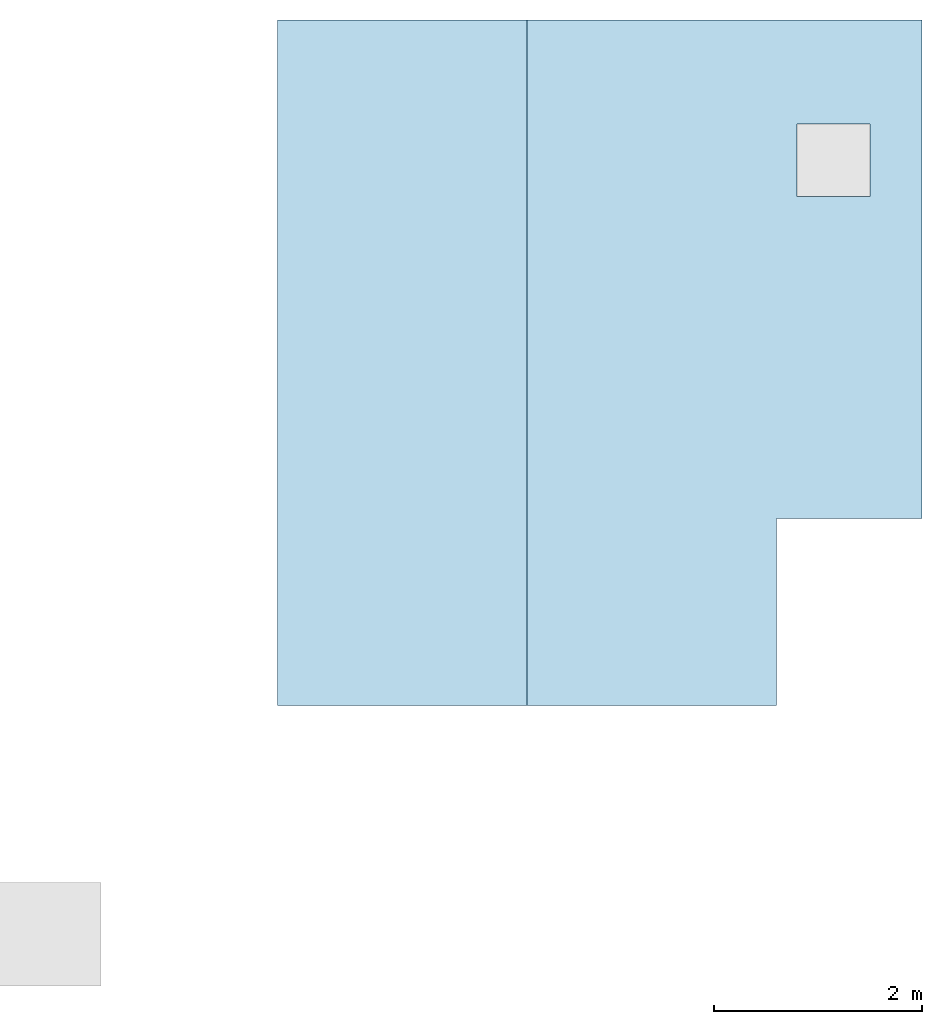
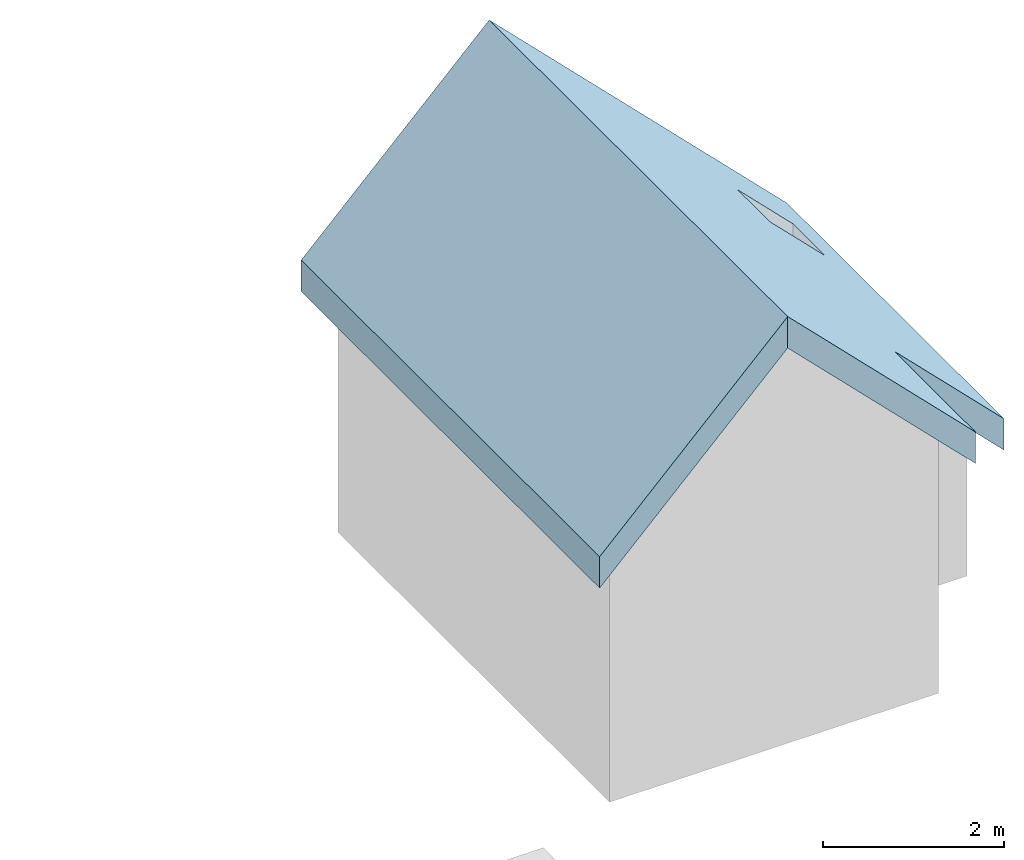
# Not in any storey, part 1 of 2: 2 slabs, 1 element without a shape of its own.
"""IFC2X3 model written with IfcOpenShell, lengths in millimetres."""

from ifc_helpers import new_model, si_unit, frame, origin_with_axes, place, context, subcontext, project, spatial, faceted_brep, material, type_object, element, aggregate, save


model = new_model("IFC2X3")

# Units and contexts
model_context = context("Model", 3, precision=0.001, world=origin_with_axes())
body_context = subcontext(model_context, "Body", "Model", "MODEL_VIEW")
ifc_project = project(units=[si_unit("LENGTHUNIT", "METRE", prefix="MILLI"), si_unit("AREAUNIT", "SQUARE_METRE"), si_unit("VOLUMEUNIT", "CUBIC_METRE")], contexts=[model_context])

# Site
site_placement = place(None, frame((-28841.016, -14200.0, -1300.0), z_axis=(0.0, 0.0, 1.0), x_axis=(0.4999999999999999, -0.8660254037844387, 0.0)))
site = spatial("IfcSite", under=ifc_project, at=site_placement, Name="environment - site", CompositionType="ELEMENT")

# Roof, slabs
roof_placement = place(site_placement, frame((1024.871, 36175.129, 3100.0), z_axis=(0.0, 0.0, 1.0), x_axis=(0.4999999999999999, 0.8660254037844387, 0.0)))
roof = element("IfcRoof", 1, at=roof_placement, inside=site, Name="house - roof", ObjectType="gable_roof", ShapeType="GABLE_ROOF")
ifc_material = material(Name="composite_element_roof")
slab_type_1 = type_object("IfcSlabType", Name="house - roof - slab left", PredefinedType="ROOF")
slab_1_placement = place(roof_placement, frame((2100.0, 6000.0, 3475.736), z_axis=(-0.707106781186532, -1.5343992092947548e-15, 0.7071067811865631), x_axis=(8.401584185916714e-15, -1.0, 6.231616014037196e-15)))
slab_1 = element("IfcSlab", 2, at=slab_1_placement, type_object=slab_type_1, material=ifc_material, Name="house - roof - slab left", ObjectType="roof", context=body_context, shape_type="Brep", body=[
    faceted_brep([(6300.0, -3094.113, 300.0), (6300.0, 300.0, 300.0), (-300.0, 300.0, 300.0), (-300.0, -3094.113, 300.0), (6300.0, -3394.113, 0.0), (6300.0, 0.0, 0.0), (-300.0, 0.0, 0.0), (-300.0, -3394.113, 0.0)], [[[0, 1, 2, 3]], [[1, 0, 4, 5]], [[2, 1, 5, 6]], [[3, 2, 6, 7]], [[0, 3, 7, 4]], [[5, 4, 7, 6]]]),
])
slab_type_2 = type_object("IfcSlabType", Name="house - roof - slab right", PredefinedType="ROOF")
slab_2_placement = place(roof_placement, frame((2100.0, 0.0, 3475.736), z_axis=(0.7071067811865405, 1.3827840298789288e-14, 0.7071067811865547), x_axis=(-2.475399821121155e-15, 1.0, -1.708011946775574e-14)))
slab_2 = element("IfcSlab", 3, at=slab_2_placement, type_object=slab_type_2, material=ifc_material, Name="house - roof - slab right", ObjectType="roof", context=body_context, shape_type="Brep", body=[
    faceted_brep([(-300.0, -3094.113, 300.0), (-300.0, 300.0, 300.0), (-300.0, 0.0, 0.0), (-300.0, -3394.113, 0.0), (1500.0, -3094.113, 300.0), (1500.0, -5074.012, 300.0), (6300.0, -5074.012, 300.0), (6300.0, 300.0, 300.0), (4600.0, -4366.905, 300.0), (4600.0, -3376.955, 300.0), (5300.0, -3376.955, 300.0), (5300.0, -4366.905, 300.0), (6300.0, 0.0, 0.0), (6300.0, -5374.012, 0.0), (1500.0, -5374.012, 0.0), (1500.0, -3394.113, 0.0), (4600.0, -4666.905, 0.0), (5300.0, -4666.905, 0.0), (5300.0, -3676.955, 0.0), (4600.0, -3676.955, 0.0)], [[[0, 1, 2, 3]], [[0, 4, 5, 6, 7, 1], [8, 9, 10, 11]], [[1, 7, 12, 2]], [[12, 13, 14, 15, 3, 2], [16, 17, 18, 19]], [[3, 15, 4, 0]], [[4, 15, 14, 5]], [[6, 5, 14, 13]], [[7, 6, 13, 12]], [[8, 16, 19, 9]], [[9, 19, 18, 10]], [[10, 18, 17, 11]], [[11, 17, 16, 8]]]),
])
aggregate(roof, [slab_1, slab_2])

save(model, "model.ifc")
